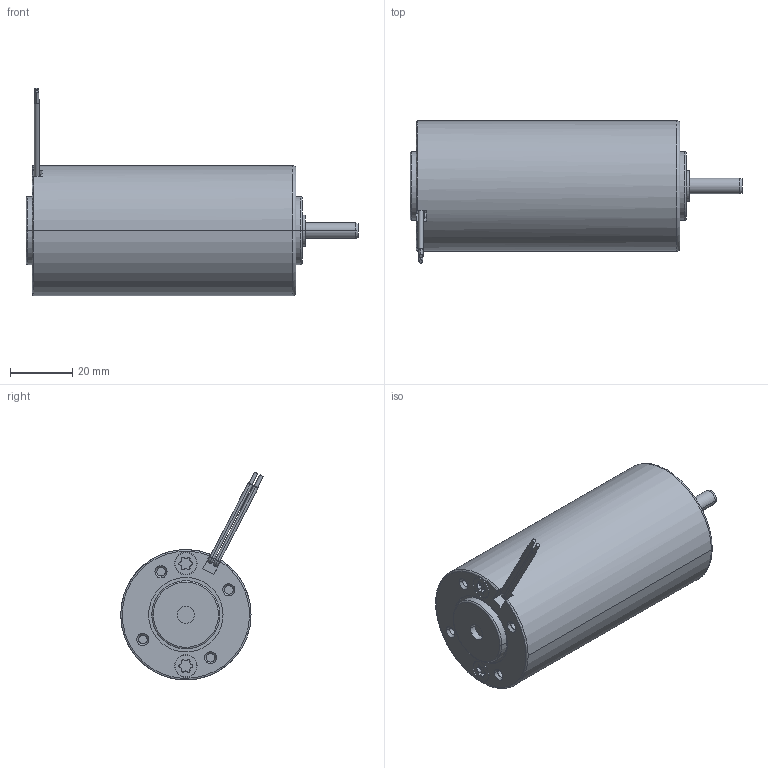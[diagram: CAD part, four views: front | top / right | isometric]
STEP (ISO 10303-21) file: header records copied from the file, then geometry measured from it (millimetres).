
FILE_DESCRIPTION((''),'2;1');
FILE_NAME('GR42X40_AS5X40_NS0','2005-06-27T',('Thomas.Berger'),(''),'PRO/ENGINEER BY PARAMETRIC TECHNOLOGY CORPORATION, 2003490','PRO/ENGINEER BY PARAMETRIC TECHNOLOGY CORPORATION, 2003490','');
FILE_SCHEMA(('AUTOMOTIVE_DESIGN_CC2 { 1 2 10303 214 -1 1 5 2 }'));
Length unit declared in the file: millimetre
Products named in the file (1): GR42X40_AS5X40_NS0
Bounding box: 107 x 45.97 x 66.98 mm (x, y, z)
Volume: 119113.6 mm3; surface area: 16285.8 mm2
Topology: 1 solids, 5 shells, 160 faces, 351 edges, 226 vertices
Faces by surface type: cylinder 92, plane 39, cone 18, torus 11
Entity records: 4776 total; most frequent: DIRECTION 900, CARTESIAN_POINT 757, ORIENTED_EDGE 686, AXIS2_PLACEMENT_3D 390, EDGE_CURVE 351, CIRCLE 229, VERTEX_POINT 226, EDGE_LOOP 193
